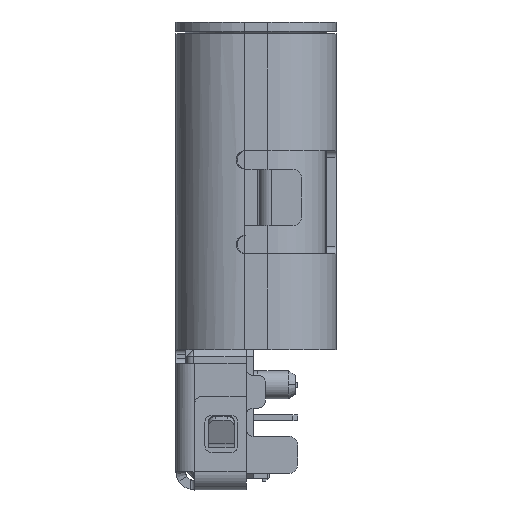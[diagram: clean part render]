
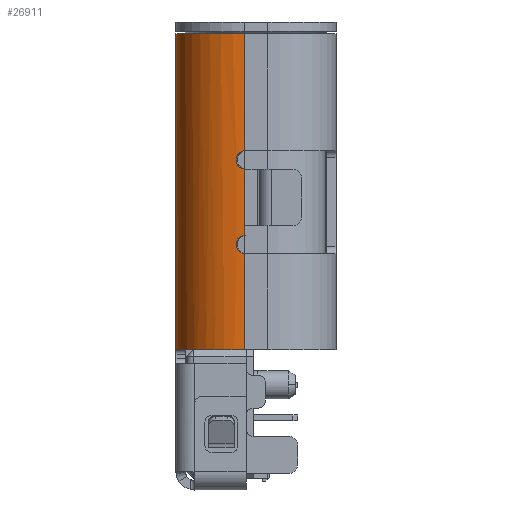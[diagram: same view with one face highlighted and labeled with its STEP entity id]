
A CAD part, left-side view. The second image highlights one B-rep face of the part: STEP entity #26911.
In plain terms, the highlighted cylindrical face has radius 1.46 mm (diameter 2.92 mm), a partial arc.
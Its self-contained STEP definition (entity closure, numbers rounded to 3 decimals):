
#1127=CARTESIAN_POINT('',(-3.14,0.54,2.25));
#1128=DIRECTION('',(0.,0.,-1.));
#1129=DIRECTION('',(-1.,0.,0.));
#1130=AXIS2_PLACEMENT_3D('',#1127,#1128,#1129);
#1228=CARTESIAN_POINT('',(-3.14,0.54,-4.5));
#1229=DIRECTION('',(0.,0.,1.));
#1230=DIRECTION('',(-0.74,0.673,0.));
#1231=AXIS2_PLACEMENT_3D('',#1228,#1229,#1230);
#3542=CARTESIAN_POINT('',(-3.14,0.54,-4.5));
#3543=DIRECTION('',(0.,0.,1.));
#3544=DIRECTION('',(-0.068,0.998,0.));
#3545=AXIS2_PLACEMENT_3D('',#3542,#3543,#3544);
#3556=DIRECTION('',(0.,0.,-1.));
#3557=VECTOR('',#3556,0.202);
#3558=CARTESIAN_POINT('',(-4.6,0.54,-1.85));
#3559=LINE('',#3558,#3557);
#3560=CARTESIAN_POINT('',(-4.6,0.54,
-2.052));
#3561=CARTESIAN_POINT('',(-4.6,0.559,
-2.054));
#3562=CARTESIAN_POINT('',(-4.599,0.596,
-2.065));
#3563=CARTESIAN_POINT('',(-4.596,0.646,
-2.096));
#3564=CARTESIAN_POINT('',(-4.593,0.684,
-2.139));
#3565=CARTESIAN_POINT('',(-4.59,0.708,
-2.192));
#3566=CARTESIAN_POINT('',(-4.589,0.717,
-2.25));
#3567=CARTESIAN_POINT('',(-4.59,0.708,
-2.307));
#3568=CARTESIAN_POINT('',(-4.593,0.684,
-2.36));
#3569=CARTESIAN_POINT('',(-4.596,0.646,
-2.404));
#3570=CARTESIAN_POINT('',(-4.599,0.596,
-2.435));
#3571=CARTESIAN_POINT('',(-4.6,0.56,
-2.446));
#3572=CARTESIAN_POINT('',(-4.6,0.54,
-2.448));
#3574=CARTESIAN_POINT('',(-3.24,1.997,-4.5));
#3575=CARTESIAN_POINT('',(-3.229,1.997,
-4.5));
#3576=CARTESIAN_POINT('',(-3.209,1.998,
-4.503));
#3577=CARTESIAN_POINT('',(-3.18,2.,
-4.518));
#3578=CARTESIAN_POINT('',(-3.158,2.,
-4.54));
#3579=CARTESIAN_POINT('',(-3.143,2.,
-4.569));
#3580=CARTESIAN_POINT('',(-3.14,2.,
-4.589));
#3581=CARTESIAN_POINT('',(-3.14,2.,
-4.6));
#3583=DIRECTION('',(0.,0.,1.));
#3584=VECTOR('',#3583,6.85);
#3585=CARTESIAN_POINT('',(-3.14,2.,
-4.6));
#3586=LINE('',#3585,#3584);
#3591=DIRECTION('',(0.,0.,1.));
#3592=VECTOR('',#3591,2.052);
#3593=CARTESIAN_POINT('',(-4.6,0.54,-4.5));
#3594=LINE('',#3593,#3592);
#4180=CARTESIAN_POINT('',(-4.59,0.714,
-0.45));
#4181=CARTESIAN_POINT('',(-4.59,0.714,
-0.431));
#4182=CARTESIAN_POINT('',(-4.59,0.708,
-0.392));
#4183=CARTESIAN_POINT('',(-4.593,0.684,
-0.339));
#4184=CARTESIAN_POINT('',(-4.596,0.646,
-0.296));
#4185=CARTESIAN_POINT('',(-4.599,0.597,
-0.265));
#4186=CARTESIAN_POINT('',(-4.6,0.559,
-0.254));
#4187=CARTESIAN_POINT('',(-4.6,0.54,-0.252));
#4196=CARTESIAN_POINT('',(-4.6,0.54,-0.648));
#4197=CARTESIAN_POINT('',(-4.6,0.559,
-0.646));
#4198=CARTESIAN_POINT('',(-4.599,0.596,
-0.635));
#4199=CARTESIAN_POINT('',(-4.596,0.646,
-0.604));
#4200=CARTESIAN_POINT('',(-4.593,0.684,
-0.561));
#4201=CARTESIAN_POINT('',(-4.59,0.708,
-0.508));
#4202=CARTESIAN_POINT('',(-4.59,0.714,
-0.469));
#4203=CARTESIAN_POINT('',(-4.59,0.714,
-0.45));
#4317=DIRECTION('',(0.,0.,1.));
#4318=VECTOR('',#4317,1.202);
#4319=CARTESIAN_POINT('',(-4.6,0.54,-1.85));
#4320=LINE('',#4319,#4318);
#4417=DIRECTION('',(0.,0.,1.));
#4418=VECTOR('',#4417,2.502);
#4419=CARTESIAN_POINT('',(-4.6,0.54,-0.252));
#4420=LINE('',#4419,#4418);
#4485=CARTESIAN_POINT('',(-3.14,0.54,-4.5));
#4486=DIRECTION('',(0.,0.,1.));
#4487=DIRECTION('',(-0.673,0.74,0.));
#4488=AXIS2_PLACEMENT_3D('',#4485,#4486,#4487);
#16851=CARTESIAN_POINT('',(-3.14,2.,2.25));
#16853=VERTEX_POINT('',#16851);
#16856=CARTESIAN_POINT('',(-3.14,2.,
-4.6));
#16858=VERTEX_POINT('',#16856);
#17239=CARTESIAN_POINT('',(-4.6,0.54,2.25));
#17240=VERTEX_POINT('',#17239);
#17277=CARTESIAN_POINT('',(-4.6,0.54,
-2.052));
#17278=VERTEX_POINT('',#17277);
#17286=VERTEX_POINT('',#3572);
#17297=CARTESIAN_POINT('',(-4.22,1.522,-4.5));
#17298=CARTESIAN_POINT('',(-4.6,0.54,-4.5));
#17299=VERTEX_POINT('',#17297);
#17300=VERTEX_POINT('',#17298);
#17832=CARTESIAN_POINT('',(-3.24,1.997,-4.5));
#17834=VERTEX_POINT('',#17832);
#17835=CARTESIAN_POINT('',(-4.122,1.62,-4.5));
#17836=VERTEX_POINT('',#17835);
#17839=CARTESIAN_POINT('',(-4.6,0.54,-1.85));
#17840=VERTEX_POINT('',#17839);
#17841=CARTESIAN_POINT('',(-4.6,0.54,-0.252));
#17842=VERTEX_POINT('',#17841);
#17843=CARTESIAN_POINT('',(-4.6,0.54,-0.648));
#17844=VERTEX_POINT('',#17843);
#17960=CARTESIAN_POINT('',(-4.59,0.714,
-0.45));
#17961=VERTEX_POINT('',#17960);
#26885=CARTESIAN_POINT('',(-3.14,0.54,-4.737));
#26886=DIRECTION('',(0.,0.,1.));
#26887=DIRECTION('',(0.,1.,0.));
#26888=AXIS2_PLACEMENT_3D('',#26885,#26886,#26887);
#26889=CYLINDRICAL_SURFACE('',#26888,1.46);
#26890=ORIENTED_EDGE('',*,*,#23274,.T.);
#26891=ORIENTED_EDGE('',*,*,#23321,.T.);
#26893=ORIENTED_EDGE('',*,*,#26892,.F.);
#26894=ORIENTED_EDGE('',*,*,#23367,.F.);
#26896=ORIENTED_EDGE('',*,*,#26895,.F.);
#26897=ORIENTED_EDGE('',*,*,#26877,.F.);
#26898=ORIENTED_EDGE('',*,*,#26867,.T.);
#26899=ORIENTED_EDGE('',*,*,#22695,.T.);
#26900=ORIENTED_EDGE('',*,*,#23191,.F.);
#26902=ORIENTED_EDGE('',*,*,#26901,.F.);
#26904=ORIENTED_EDGE('',*,*,#26903,.F.);
#26906=ORIENTED_EDGE('',*,*,#26905,.F.);
#26908=ORIENTED_EDGE('',*,*,#26907,.F.);
#26909=EDGE_LOOP('',(#26890,#26891,#26893,#26894,#26896,#26897,#26898,#26899,
#26900,#26902,#26904,#26906,#26908));
#26910=FACE_OUTER_BOUND('',#26909,.F.);
#1131=CIRCLE('',#1130,1.46);
#1232=CIRCLE('',#1231,1.46);
#3546=CIRCLE('',#3545,1.46);
#3573=B_SPLINE_CURVE_WITH_KNOTS('',3,(#3560,#3561,#3562,#3563,#3564,#3565,#3566,
#3567,#3568,#3569,#3570,#3571,#3572),.UNSPECIFIED.,.F.,.F.,(4,1,1,1,1,1,1,1,1,1,
4),(0.,0.1,0.2,0.3,0.4,0.5,0.6,0.7,0.8,0.9,1.),
.UNSPECIFIED.);
#3582=B_SPLINE_CURVE_WITH_KNOTS('',3,(#3574,#3575,#3576,#3577,#3578,#3579,#3580,
#3581),.UNSPECIFIED.,.F.,.F.,(4,1,1,1,1,4),(0.,0.2,0.4,0.6,0.8,1.),
.UNSPECIFIED.);
#4188=B_SPLINE_CURVE_WITH_KNOTS('',3,(#4180,#4181,#4182,#4183,#4184,#4185,#4186,
#4187),.UNSPECIFIED.,.F.,.F.,(4,1,1,1,1,4),(0.,0.2,0.4,0.6,0.8,1.),
.UNSPECIFIED.);
#4204=B_SPLINE_CURVE_WITH_KNOTS('',3,(#4196,#4197,#4198,#4199,#4200,#4201,#4202,
#4203),.UNSPECIFIED.,.F.,.F.,(4,1,1,1,1,4),(0.,0.2,0.4,0.6,0.8,1.),
.UNSPECIFIED.);
#4489=CIRCLE('',#4488,1.46);
#22695=EDGE_CURVE('',#16858,#16853,#3586,.T.);
#23191=EDGE_CURVE('',#17240,#16853,#1131,.T.);
#23274=EDGE_CURVE('',#17840,#17278,#3559,.T.);
#23321=EDGE_CURVE('',#17278,#17286,#3573,.T.);
#23367=EDGE_CURVE('',#17299,#17300,#1232,.T.);
#26867=EDGE_CURVE('',#17834,#16858,#3582,.T.);
#26877=EDGE_CURVE('',#17834,#17836,#3546,.T.);
#26892=EDGE_CURVE('',#17300,#17286,#3594,.T.);
#26895=EDGE_CURVE('',#17836,#17299,#4489,.T.);
#26901=EDGE_CURVE('',#17842,#17240,#4420,.T.);
#26903=EDGE_CURVE('',#17961,#17842,#4188,.T.);
#26905=EDGE_CURVE('',#17844,#17961,#4204,.T.);
#26907=EDGE_CURVE('',#17840,#17844,#4320,.T.);
#26911=ADVANCED_FACE('',(#26910),#26889,.T.);
